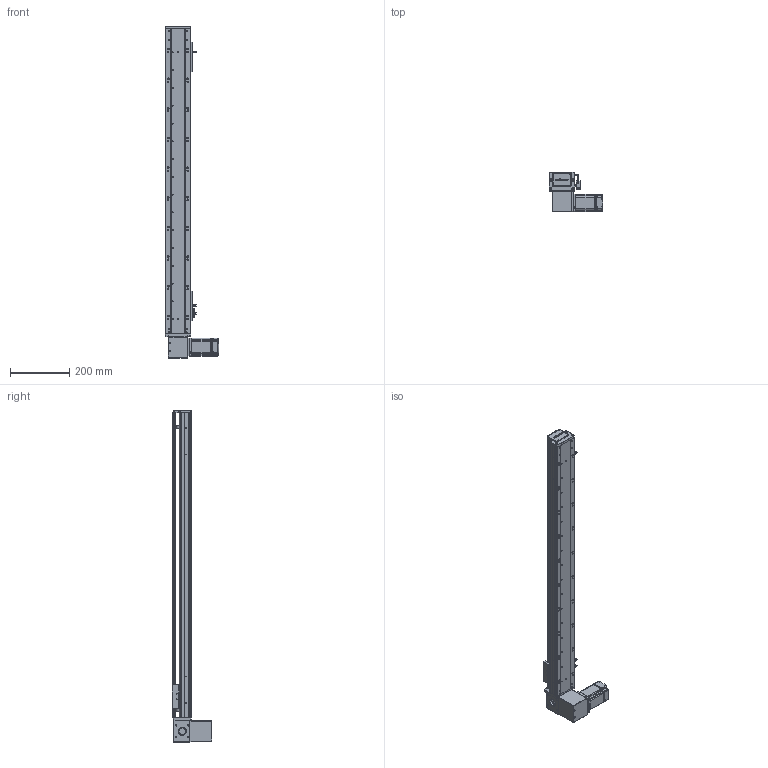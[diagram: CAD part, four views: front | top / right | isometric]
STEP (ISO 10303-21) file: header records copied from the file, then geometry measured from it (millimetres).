
FILE_DESCRIPTION (( 'STEP AP203' ), '1' );
FILE_NAME ('RY80-T-300-DR.SLDASM_850.step', '2021-03-01T01:49:54', ( '盈信电脑' ), ( '东莞市道滘镇水果街19号' ), 'SwSTEP 2.0', 'SolidWorks 2012', '' );
FILE_SCHEMA (( 'CONFIG_CONTROL_DESIGN' ));
Length unit declared in the file: millimetre
Products named in the file (18): RY80-T-300-DR倰第菁釱_850; RY80-T肮祭謫臏賑輸; RY80-T-M4蹟翐3; 1; RY80-T-300-DR.SLDASM_850; RY80-T萇儂假蚾啣; RY80-T-上下折同步轮盖板; RY80-T肮祭謫狟殏俋欶; RY80-T翋肮祭謫裔啣; RY80-T肮祭湍揤輸2; RY80-T肮祭湍揤輸1; 滅袉蝶18-10; 覜茼ん672; 672嫖萇羲壽假蚾釱; RY80-T-翋肮祭謫釱; RY80俋离覜茼え; RY80-T-300-DR倰第奻裔啣_850; RY80-T綴裔啣
Assembly tree (21 placements, depth 2):
  RY80-T-300-DR.SLDASM_850
    RY80-T-300-DR倰第菁釱_850
    RY80-T肮祭謫臏賑輸
    RY80-T-300-DR倰第奻裔啣_850
    RY80-T綴裔啣
    672嫖萇羲壽假蚾釱  x2
    覜茼ん672  x3
    RY80俋离覜茼え
    RY80-T-翋肮祭謫釱
    RY80-T肮祭湍揤輸1
    RY80-T肮祭湍揤輸2
    滅袉蝶18-10  x2
    RY80-T翋肮祭謫裔啣
    RY80-T-上下折同步轮盖板
    RY80-T肮祭謫狟殏俋欶
    RY80-T萇儂假蚾啣
    1
    RY80-T-M4蹟翐3
Bounding box: 180 x 134.5 x 1120 mm (x, y, z)
Volume: 1965766.7 mm3; surface area: 818407.3 mm2
Topology: 21 solids, 21 shells, 2524 faces, 7012 edges, 4554 vertices
Faces by surface type: plane 1331, cylinder 993, cone 144, bspline 56
Entity records: 81746 total; most frequent: CARTESIAN_POINT 20726, ORIENTED_EDGE 12668, DIRECTION 11726, EDGE_CURVE 6334, VERTEX_POINT 4158, AXIS2_PLACEMENT_3D 3958, VECTOR 3810, LINE 3810
